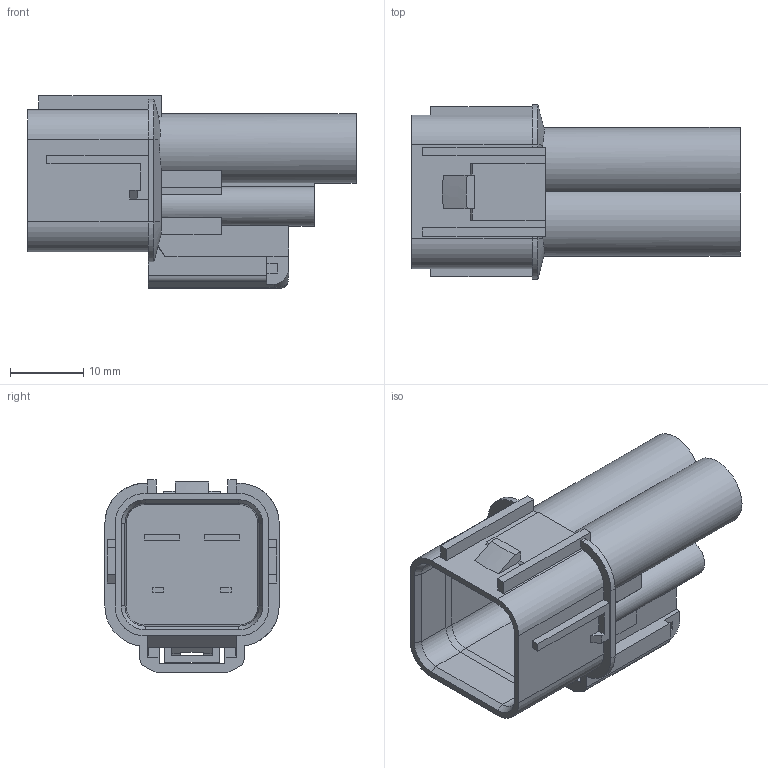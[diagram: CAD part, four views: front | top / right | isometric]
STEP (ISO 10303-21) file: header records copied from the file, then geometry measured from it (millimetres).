
FILE_DESCRIPTION(('CATIA V5 STEP','CAx-IF Rec.Pracs.--- Model Styling and Organization---1.5--- 2016-08-15','CAx-IF Rec.Pracs.---Supplemental Geometry---1.0---2011-11-01','CAx-IF Rec.Pracs.--- Composite Materials ---1.1---2010-07-15'),'2;1');
FILE_NAME('\\192.168.6.3\catia5_db\C-DAM_MyDesk\CONE2\COMMON\HONDA\3D_catalog\HX060_187\HX62+82M-B\6181-6785.stp','2026-02-20T05:41:58+00:00',('none'),('none'),'CATIA Version 5-6 Release 2022 SP2 HF23','CATIA V5 STEP AP214 v2','none');
FILE_SCHEMA(('AUTOMOTIVE_DESIGN { 1 0 10303 214 1 1 1 1 }'));
Length unit declared in the file: millimetre
Products named in the file (1): 6181-6785
Bounding box: 44.8 x 23.8 x 26.32 mm (x, y, z)
Volume: 9048.7 mm3; surface area: 6622 mm2
Topology: 1 solids, 1 shells, 218 faces, 640 edges, 426 vertices
Faces by surface type: plane 161, cylinder 40, cone 12, torus 2, bspline 2, extrusion 1
Entity records: 7232 total; most frequent: CARTESIAN_POINT 1717, ORIENTED_EDGE 1280, DIRECTION 911, EDGE_CURVE 640, VECTOR 473, LINE 472, VERTEX_POINT 426, AXIS2_PLACEMENT_3D 272
